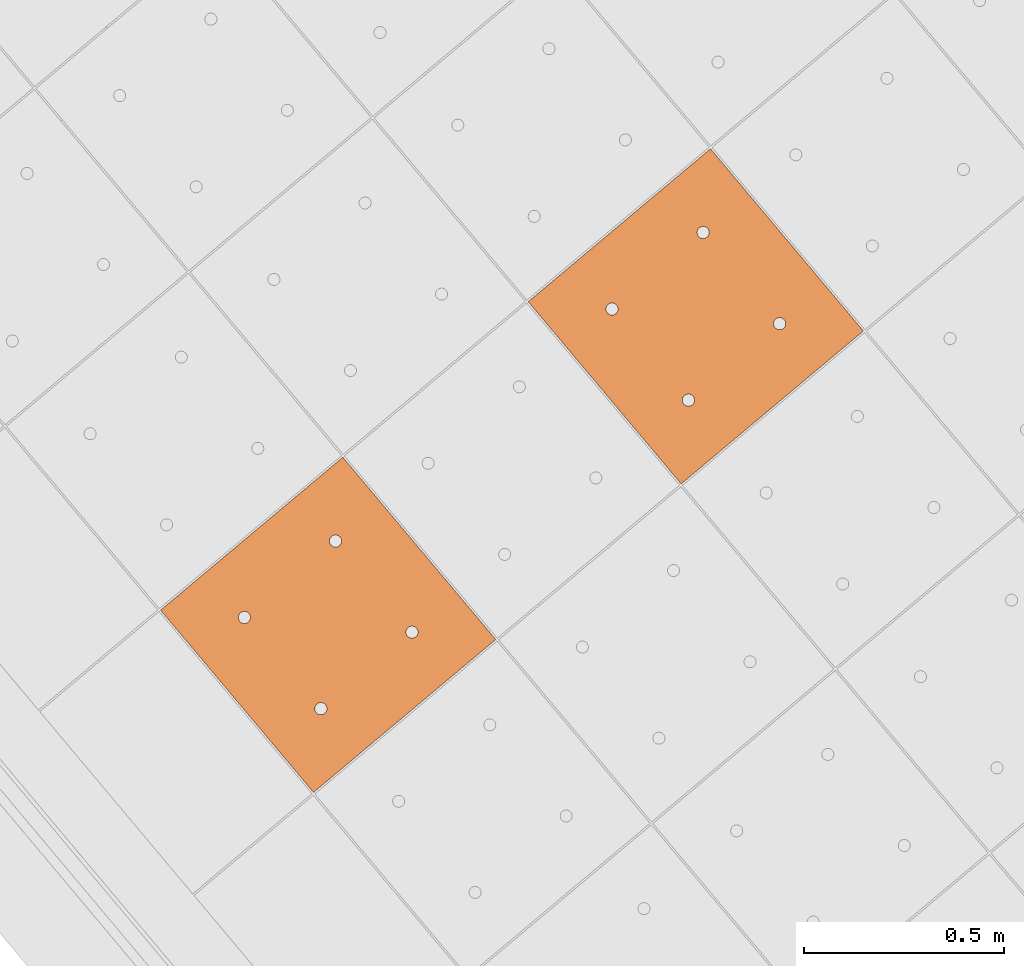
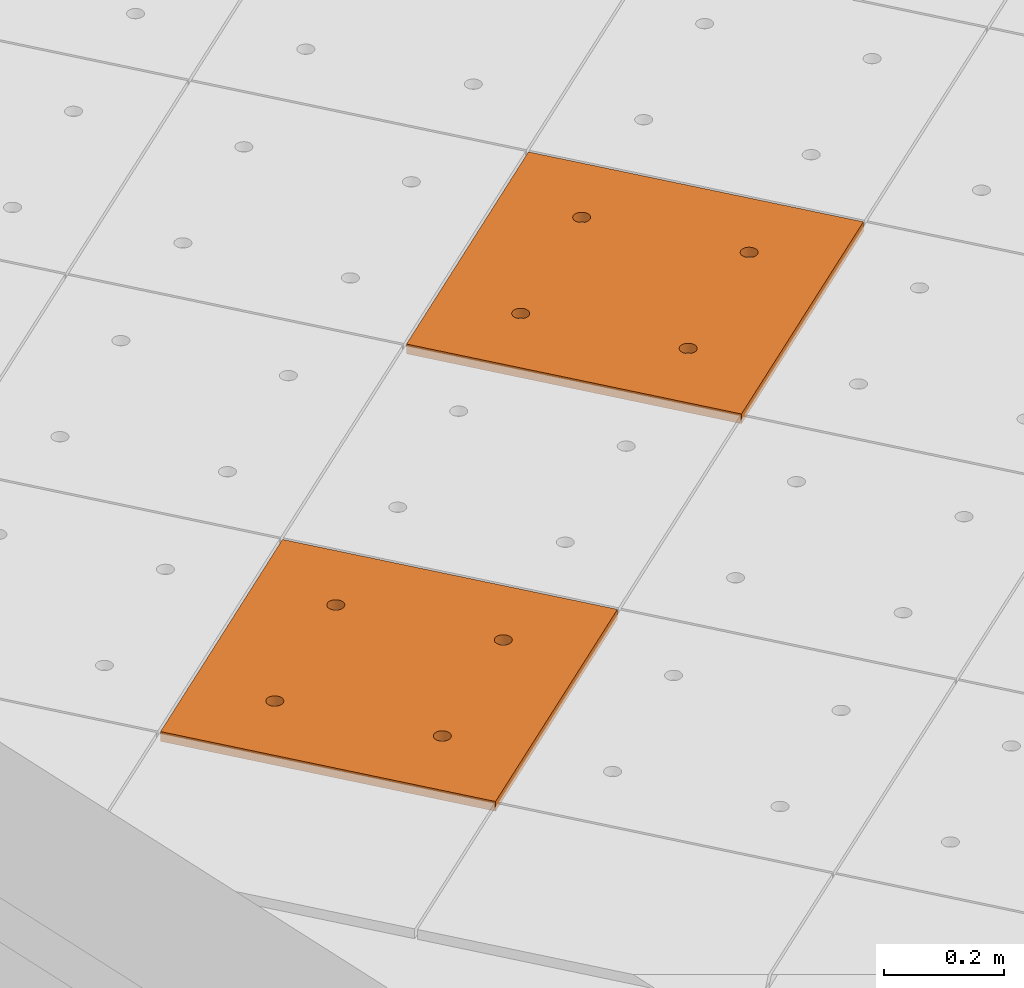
# One storey, part 128 of 338: 2 proxies, 1 element without a shape of its own.
"""IFC2X3 building model written with IfcOpenShell, lengths in millimetres."""

from ifc_helpers import new_model, entity, si_unit, converted_unit, derived_unit, money_unit, direction, frame, origin_with_axes, place, context, subcontext, project, spatial, faceted_brep, source, transform, mapped, material, type_object, type_shapes, element, aggregate, save


model = new_model("IFC2X3")

# Units and contexts
model_context = context("Model", 3, precision=0.01, world=origin_with_axes(), true_north=direction((0.0, 1.0)))
plan_context = context("Plan", 3, precision=0.01, world=origin_with_axes(), true_north=direction((0.0, 1.0)))
body_context = subcontext(model_context, "Body", "Model", "MODEL_VIEW")
ifc_project = project(units=[si_unit("LENGTHUNIT", "METRE", prefix="MILLI"), si_unit("AREAUNIT", "SQUARE_METRE"), si_unit("VOLUMEUNIT", "CUBIC_METRE"), converted_unit("PLANEANGLEUNIT", "DEGREE", entity("IfcPlaneAngleMeasure", 0.0174532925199), si_unit("PLANEANGLEUNIT", "RADIAN"), dimensions=[0, 0, 0, 0, 0, 0, 0]), money_unit("EUR"), converted_unit("TIMEUNIT", "Year", entity("IfcTimeMeasure", 31556926.0), si_unit("TIMEUNIT", "SECOND"), dimensions=[0, 0, 1, 0, 0, 0, 0]), si_unit("MASSUNIT", "GRAM", prefix="KILO"), si_unit("THERMODYNAMICTEMPERATUREUNIT", "DEGREE_CELSIUS"), si_unit("LUMINOUSINTENSITYUNIT", "LUMEN"), si_unit("ENERGYUNIT", "JOULE", prefix="MEGA"), derived_unit("THERMALCONDUCTANCEUNIT", [(si_unit("POWERUNIT", "WATT"), 1), (si_unit("LENGTHUNIT", "METRE"), -1), (si_unit("THERMODYNAMICTEMPERATUREUNIT", "KELVIN"), -1)]), derived_unit("SPECIFICHEATCAPACITYUNIT", [(si_unit("ENERGYUNIT", "JOULE"), 1), (si_unit("MASSUNIT", "GRAM", prefix="KILO"), -1), (si_unit("THERMODYNAMICTEMPERATUREUNIT", "KELVIN"), -1)]), derived_unit("MASSDENSITYUNIT", [(si_unit("MASSUNIT", "GRAM", prefix="KILO"), 1), (si_unit("VOLUMEUNIT", "CUBIC_METRE"), -1)])], contexts=[model_context, plan_context])

# Site, building, storey
site_placement = place(None, origin_with_axes())
site = spatial("IfcSite", under=ifc_project, at=site_placement, Name="Fortuinstraat Woensdrecht", CompositionType="ELEMENT")
building_placement = place(site_placement, origin_with_axes())
building = spatial("IfcBuilding", under=site, at=building_placement, Name="IKC Fortuna", CompositionType="ELEMENT")
storey_placement = place(building_placement, origin_with_axes())
storey = spatial("IfcBuildingStorey", under=building, at=storey_placement, Name="00 begane grond", CompositionType="ELEMENT", Elevation=0.0)

# Covering, proxies
covering_type = type_object("IfcCoveringType", Name="Curtain Wall Type", PredefinedType="CEILING")
covering_placement = place(storey_placement, frame((15150.6418133, -6622.13986243, 4660.0), z_axis=(0.0, 0.0, 1.0), x_axis=(1.0, 0.0, 0.0)))
covering = element("IfcCovering", 1, at=covering_placement, inside=storey, type_object=covering_type, Name="45_Plafondafwerking_P01", PredefinedType="CEILING")
ifc_material = material(Name="Gipsplaat")
building_element_proxy_type = type_object("IfcBuildingElementProxyType", Name="Main Panel 600 x 600 x 20", PredefinedType="NOTDEFINED")
shared_shape = source(origin_with_axes(), body_context, "Body", "Brep", [
    faceted_brep([(2.49999999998, 2.49999999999, -10.0), (300.0, 2.49999999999, -10.0), (300.0, 2.49999999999, 10.0), (2.49999999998, 2.49999999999, 10.0), (2.49999999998, 300.0, -10.0), (2.49999999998, 597.5, -10.0), (300.0, 597.5, -10.0), (597.5, 597.5, -10.0), (597.5, 300.0, -10.0), (597.5, 2.49999999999, -10.0), (166.25, 450.06232995, -10.0), (165.79423259, 452.64711538, -10.0), (164.896546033, 455.11348892, -10.0), (163.58421608, 457.38651108, -10.0), (161.897117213, 459.39711721, -10.0), (159.886511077, 461.08421608, -10.0), (157.613488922, 462.39654603, -10.0), (155.147115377, 463.29423259, -10.0), (152.562329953, 463.75, -10.0), (149.937670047, 463.75, -10.0), (147.352884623, 463.29423259, -10.0), (144.886511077, 462.39654603, -10.0), (142.613488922, 461.08421608, -10.0), (140.602882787, 459.39711721, -10.0), (138.91578392, 457.38651108, -10.0), (137.603453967, 455.11348892, -10.0), (136.705767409, 452.64711538, -10.0), (136.25, 450.06232995, -10.0), (136.25, 448.75, -10.0), (136.25, 447.43767005, -10.0), (136.705767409, 444.85288462, -10.0), (137.603453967, 442.38651108, -10.0), (138.91578392, 440.11348892, -10.0), (140.602882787, 438.10288279, -10.0), (142.613488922, 436.41578392, -10.0), (144.886511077, 435.10345397, -10.0), (147.352884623, 434.20576741, -10.0), (149.937670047, 433.75, -10.0), (152.562329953, 433.75, -10.0), (155.147115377, 434.20576741, -10.0), (157.613488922, 435.10345397, -10.0), (159.886511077, 436.41578392, -10.0), (161.897117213, 438.10288279, -10.0), (163.58421608, 440.11348892, -10.0), (164.896546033, 442.38651108, -10.0), (165.79423259, 444.85288462, -10.0), (166.25, 447.43767005, -10.0), (463.75, 450.06232995, -10.0), (463.29423259, 452.64711538, -10.0), (462.396546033, 455.11348892, -10.0), (461.08421608, 457.38651108, -10.0), (459.397117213, 459.39711721, -10.0), (457.386511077, 461.08421608, -10.0), (455.113488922, 462.39654603, -10.0), (452.647115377, 463.29423259, -10.0), (450.062329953, 463.75, -10.0), (447.437670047, 463.75, -10.0), (444.852884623, 463.29423259, -10.0), (442.386511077, 462.39654603, -10.0), (440.113488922, 461.08421608, -10.0), (438.102882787, 459.39711721, -10.0), (436.41578392, 457.38651108, -10.0), (435.103453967, 455.11348892, -10.0), (434.205767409, 452.64711538, -10.0), (433.75, 450.06232995, -10.0), (433.75, 448.75, -10.0), (433.75, 447.43767005, -10.0), (434.205767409, 444.85288462, -10.0), (435.103453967, 442.38651108, -10.0), (436.41578392, 440.11348892, -10.0), (438.102882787, 438.10288279, -10.0), (440.113488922, 436.41578392, -10.0), (442.386511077, 435.10345397, -10.0), (444.852884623, 434.20576741, -10.0), (447.437670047, 433.75, -10.0), (450.062329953, 433.75, -10.0), (452.647115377, 434.20576741, -10.0), (455.113488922, 435.10345397, -10.0), (457.386511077, 436.41578392, -10.0), (459.397117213, 438.10288279, -10.0), (461.08421608, 440.11348892, -10.0), (462.396546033, 442.38651108, -10.0), (463.29423259, 444.85288462, -10.0), (463.75, 447.43767005, -10.0), (463.75, 152.56232995, -10.0), (463.29423259, 155.14711538, -10.0), (462.396546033, 157.61348892, -10.0), (461.08421608, 159.88651108, -10.0), (459.397117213, 161.89711721, -10.0), (457.386511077, 163.58421608, -10.0), (455.113488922, 164.89654603, -10.0), (452.647115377, 165.79423259, -10.0), (450.062329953, 166.25, -10.0), (447.437670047, 166.25, -10.0), (444.852884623, 165.79423259, -10.0), (442.386511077, 164.89654603, -10.0), (440.113488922, 163.58421608, -10.0), (438.102882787, 161.89711721, -10.0), (436.41578392, 159.88651108, -10.0), (435.103453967, 157.61348892, -10.0), (434.205767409, 155.14711538, -10.0), (433.75, 152.56232995, -10.0), (433.75, 151.25, -10.0), (433.75, 149.93767005, -10.0), (434.205767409, 147.35288462, -10.0), (435.103453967, 144.88651108, -10.0), (436.41578392, 142.61348892, -10.0), (438.102882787, 140.60288279, -10.0), (440.113488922, 138.91578392, -10.0), (442.386511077, 137.60345397, -10.0), (444.852884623, 136.70576741, -10.0), (447.437670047, 136.25, -10.0), (450.062329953, 136.25, -10.0), (452.647115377, 136.70576741, -10.0), (455.113488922, 137.60345397, -10.0), (457.386511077, 138.91578392, -10.0), (459.397117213, 140.60288279, -10.0), (461.08421608, 142.61348892, -10.0), (462.396546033, 144.88651108, -10.0), (463.29423259, 147.35288462, -10.0), (463.75, 149.93767005, -10.0), (166.25, 152.56232995, -10.0), (165.79423259, 155.14711538, -10.0), (164.896546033, 157.61348892, -10.0), (163.58421608, 159.88651108, -10.0), (161.897117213, 161.89711721, -10.0), (159.886511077, 163.58421608, -10.0), (157.613488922, 164.89654603, -10.0), (155.147115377, 165.79423259, -10.0), (152.562329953, 166.25, -10.0), (149.937670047, 166.25, -10.0), (147.352884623, 165.79423259, -10.0), (144.886511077, 164.89654603, -10.0), (142.613488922, 163.58421608, -10.0), (140.602882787, 161.89711721, -10.0), (138.91578392, 159.88651108, -10.0), (137.603453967, 157.61348892, -10.0), (136.705767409, 155.14711538, -10.0), (136.25, 152.56232995, -10.0), (136.25, 151.25, -10.0), (136.25, 149.93767005, -10.0), (136.705767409, 147.35288462, -10.0), (137.603453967, 144.88651108, -10.0), (138.91578392, 142.61348892, -10.0), (140.602882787, 140.60288279, -10.0), (142.613488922, 138.91578392, -10.0), (144.886511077, 137.60345397, -10.0), (147.352884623, 136.70576741, -10.0), (149.937670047, 136.25, -10.0), (152.562329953, 136.25, -10.0), (155.147115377, 136.70576741, -10.0), (157.613488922, 137.60345397, -10.0), (159.886511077, 138.91578392, -10.0), (161.897117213, 140.60288279, -10.0), (163.58421608, 142.61348892, -10.0), (164.896546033, 144.88651108, -10.0), (165.79423259, 147.35288462, -10.0), (166.25, 149.93767005, -10.0), (597.5, 2.49999999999, 10.0), (597.5, 300.0, 10.0), (597.5, 597.5, 10.0), (300.0, 597.5, 10.0), (2.49999999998, 597.5, 10.0), (2.49999999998, 300.0, 10.0), (166.25, 450.06232995, 10.0), (166.25, 447.43767005, 10.0), (165.79423259, 444.85288462, 10.0), (164.896546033, 442.38651108, 10.0), (163.58421608, 440.11348892, 10.0), (161.897117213, 438.10288279, 10.0), (159.886511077, 436.41578392, 10.0), (157.613488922, 435.10345397, 10.0), (155.147115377, 434.20576741, 10.0), (152.562329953, 433.75, 10.0), (149.937670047, 433.75, 10.0), (147.352884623, 434.20576741, 10.0), (144.886511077, 435.10345397, 10.0), (142.613488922, 436.41578392, 10.0), (140.602882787, 438.10288279, 10.0), (138.91578392, 440.11348892, 10.0), (137.603453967, 442.38651108, 10.0), (136.705767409, 444.85288462, 10.0), (136.25, 447.43767005, 10.0), (136.25, 448.75, 10.0), (136.25, 450.06232995, 10.0), (136.705767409, 452.64711538, 10.0), (137.603453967, 455.11348892, 10.0), (138.91578392, 457.38651108, 10.0), (140.602882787, 459.39711721, 10.0), (142.613488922, 461.08421608, 10.0), (144.886511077, 462.39654603, 10.0), (147.352884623, 463.29423259, 10.0), (149.937670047, 463.75, 10.0), (152.562329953, 463.75, 10.0), (155.147115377, 463.29423259, 10.0), (157.613488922, 462.39654603, 10.0), (159.886511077, 461.08421608, 10.0), (161.897117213, 459.39711721, 10.0), (163.58421608, 457.38651108, 10.0), (164.896546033, 455.11348892, 10.0), (165.79423259, 452.64711538, 10.0), (463.75, 450.06232995, 10.0), (463.75, 447.43767005, 10.0), (463.29423259, 444.85288462, 10.0), (462.396546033, 442.38651108, 10.0), (461.08421608, 440.11348892, 10.0), (459.397117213, 438.10288279, 10.0), (457.386511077, 436.41578392, 10.0), (455.113488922, 435.10345397, 10.0), (452.647115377, 434.20576741, 10.0), (450.062329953, 433.75, 10.0), (447.437670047, 433.75, 10.0), (444.852884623, 434.20576741, 10.0), (442.386511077, 435.10345397, 10.0), (440.113488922, 436.41578392, 10.0), (438.102882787, 438.10288279, 10.0), (436.41578392, 440.11348892, 10.0), (435.103453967, 442.38651108, 10.0), (434.205767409, 444.85288462, 10.0), (433.75, 447.43767005, 10.0), (433.75, 448.75, 10.0), (433.75, 450.06232995, 10.0), (434.205767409, 452.64711538, 10.0), (435.103453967, 455.11348892, 10.0), (436.41578392, 457.38651108, 10.0), (438.102882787, 459.39711721, 10.0), (440.113488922, 461.08421608, 10.0), (442.386511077, 462.39654603, 10.0), (444.852884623, 463.29423259, 10.0), (447.437670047, 463.75, 10.0), (450.062329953, 463.75, 10.0), (452.647115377, 463.29423259, 10.0), (455.113488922, 462.39654603, 10.0), (457.386511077, 461.08421608, 10.0), (459.397117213, 459.39711721, 10.0), (461.08421608, 457.38651108, 10.0), (462.396546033, 455.11348892, 10.0), (463.29423259, 452.64711538, 10.0), (463.75, 152.56232995, 10.0), (463.75, 149.93767005, 10.0), (463.29423259, 147.35288462, 10.0), (462.396546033, 144.88651108, 10.0), (461.08421608, 142.61348892, 10.0), (459.397117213, 140.60288279, 10.0), (457.386511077, 138.91578392, 10.0), (455.113488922, 137.60345397, 10.0), (452.647115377, 136.70576741, 10.0), (450.062329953, 136.25, 10.0), (447.437670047, 136.25, 10.0), (444.852884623, 136.70576741, 10.0), (442.386511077, 137.60345397, 10.0), (440.113488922, 138.91578392, 10.0), (438.102882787, 140.60288279, 10.0), (436.41578392, 142.61348892, 10.0), (435.103453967, 144.88651108, 10.0), (434.205767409, 147.35288462, 10.0), (433.75, 149.93767005, 10.0), (433.75, 151.25, 10.0), (433.75, 152.56232995, 10.0), (434.205767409, 155.14711538, 10.0), (435.103453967, 157.61348892, 10.0), (436.41578392, 159.88651108, 10.0), (438.102882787, 161.89711721, 10.0), (440.113488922, 163.58421608, 10.0), (442.386511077, 164.89654603, 10.0), (444.852884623, 165.79423259, 10.0), (447.437670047, 166.25, 10.0), (450.062329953, 166.25, 10.0), (452.647115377, 165.79423259, 10.0), (455.113488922, 164.89654603, 10.0), (457.386511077, 163.58421608, 10.0), (459.397117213, 161.89711721, 10.0), (461.08421608, 159.88651108, 10.0), (462.396546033, 157.61348892, 10.0), (463.29423259, 155.14711538, 10.0), (166.25, 152.56232995, 10.0), (166.25, 149.93767005, 10.0), (165.79423259, 147.35288462, 10.0), (164.896546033, 144.88651108, 10.0), (163.58421608, 142.61348892, 10.0), (161.897117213, 140.60288279, 10.0), (159.886511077, 138.91578392, 10.0), (157.613488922, 137.60345397, 10.0), (155.147115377, 136.70576741, 10.0), (152.562329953, 136.25, 10.0), (149.937670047, 136.25, 10.0), (147.352884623, 136.70576741, 10.0), (144.886511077, 137.60345397, 10.0), (142.613488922, 138.91578392, 10.0), (140.602882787, 140.60288279, 10.0), (138.91578392, 142.61348892, 10.0), (137.603453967, 144.88651108, 10.0), (136.705767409, 147.35288462, 10.0), (136.25, 149.93767005, 10.0), (136.25, 151.25, 10.0), (136.25, 152.56232995, 10.0), (136.705767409, 155.14711538, 10.0), (137.603453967, 157.61348892, 10.0), (138.91578392, 159.88651108, 10.0), (140.602882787, 161.89711721, 10.0), (142.613488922, 163.58421608, 10.0), (144.886511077, 164.89654603, 10.0), (147.352884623, 165.79423259, 10.0), (149.937670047, 166.25, 10.0), (152.562329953, 166.25, 10.0), (155.147115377, 165.79423259, 10.0), (157.613488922, 164.89654603, 10.0), (159.886511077, 163.58421608, 10.0), (161.897117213, 161.89711721, 10.0), (163.58421608, 159.88651108, 10.0), (164.896546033, 157.61348892, 10.0), (165.79423259, 155.14711538, 10.0)], [[[0, 1, 2, 3]], [[0, 4, 5, 6, 7, 8, 9, 1], [10, 11, 12, 13, 14, 15, 16, 17, 18, 19, 20, 21, 22, 23, 24, 25, 26, 27, 28, 29, 30, 31, 32, 33, 34, 35, 36, 37, 38, 39, 40, 41, 42, 43, 44, 45, 46], [47, 48, 49, 50, 51, 52, 53, 54, 55, 56, 57, 58, 59, 60, 61, 62, 63, 64, 65, 66, 67, 68, 69, 70, 71, 72, 73, 74, 75, 76, 77, 78, 79, 80, 81, 82, 83], [84, 85, 86, 87, 88, 89, 90, 91, 92, 93, 94, 95, 96, 97, 98, 99, 100, 101, 102, 103, 104, 105, 106, 107, 108, 109, 110, 111, 112, 113, 114, 115, 116, 117, 118, 119, 120], [121, 122, 123, 124, 125, 126, 127, 128, 129, 130, 131, 132, 133, 134, 135, 136, 137, 138, 139, 140, 141, 142, 143, 144, 145, 146, 147, 148, 149, 150, 151, 152, 153, 154, 155, 156, 157]], [[1, 9, 158, 2]], [[3, 2, 158, 159, 160, 161, 162, 163], [164, 165, 166, 167, 168, 169, 170, 171, 172, 173, 174, 175, 176, 177, 178, 179, 180, 181, 182, 183, 184, 185, 186, 187, 188, 189, 190, 191, 192, 193, 194, 195, 196, 197, 198, 199, 200], [201, 202, 203, 204, 205, 206, 207, 208, 209, 210, 211, 212, 213, 214, 215, 216, 217, 218, 219, 220, 221, 222, 223, 224, 225, 226, 227, 228, 229, 230, 231, 232, 233, 234, 235, 236, 237], [238, 239, 240, 241, 242, 243, 244, 245, 246, 247, 248, 249, 250, 251, 252, 253, 254, 255, 256, 257, 258, 259, 260, 261, 262, 263, 264, 265, 266, 267, 268, 269, 270, 271, 272, 273, 274], [275, 276, 277, 278, 279, 280, 281, 282, 283, 284, 285, 286, 287, 288, 289, 290, 291, 292, 293, 294, 295, 296, 297, 298, 299, 300, 301, 302, 303, 304, 305, 306, 307, 308, 309, 310, 311]], [[4, 0, 3, 163]], [[5, 4, 163, 162]], [[6, 5, 162, 161]], [[7, 6, 161, 160]], [[8, 7, 160, 159]], [[9, 8, 159, 158]], [[11, 10, 164, 200]], [[12, 11, 200, 199]], [[13, 12, 199, 198]], [[14, 13, 198, 197]], [[15, 14, 197, 196]], [[16, 15, 196, 195]], [[17, 16, 195, 194]], [[18, 17, 194, 193]], [[19, 18, 193, 192]], [[20, 19, 192, 191]], [[21, 20, 191, 190]], [[22, 21, 190, 189]], [[23, 22, 189, 188]], [[24, 23, 188, 187]], [[25, 24, 187, 186]], [[26, 25, 186, 185]], [[27, 26, 185, 184]], [[28, 27, 184, 183]], [[29, 28, 183, 182]], [[30, 29, 182, 181]], [[31, 30, 181, 180]], [[32, 31, 180, 179]], [[33, 32, 179, 178]], [[34, 33, 178, 177]], [[35, 34, 177, 176]], [[36, 35, 176, 175]], [[37, 36, 175, 174]], [[38, 37, 174, 173]], [[39, 38, 173, 172]], [[40, 39, 172, 171]], [[41, 40, 171, 170]], [[42, 41, 170, 169]], [[43, 42, 169, 168]], [[44, 43, 168, 167]], [[45, 44, 167, 166]], [[46, 45, 166, 165]], [[10, 46, 165, 164]], [[48, 47, 201, 237]], [[49, 48, 237, 236]], [[50, 49, 236, 235]], [[51, 50, 235, 234]], [[52, 51, 234, 233]], [[53, 52, 233, 232]], [[54, 53, 232, 231]], [[55, 54, 231, 230]], [[56, 55, 230, 229]], [[57, 56, 229, 228]], [[58, 57, 228, 227]], [[59, 58, 227, 226]], [[60, 59, 226, 225]], [[61, 60, 225, 224]], [[62, 61, 224, 223]], [[63, 62, 223, 222]], [[64, 63, 222, 221]], [[65, 64, 221, 220]], [[66, 65, 220, 219]], [[67, 66, 219, 218]], [[68, 67, 218, 217]], [[69, 68, 217, 216]], [[70, 69, 216, 215]], [[71, 70, 215, 214]], [[72, 71, 214, 213]], [[73, 72, 213, 212]], [[74, 73, 212, 211]], [[75, 74, 211, 210]], [[76, 75, 210, 209]], [[77, 76, 209, 208]], [[78, 77, 208, 207]], [[79, 78, 207, 206]], [[80, 79, 206, 205]], [[81, 80, 205, 204]], [[82, 81, 204, 203]], [[83, 82, 203, 202]], [[47, 83, 202, 201]], [[85, 84, 238, 274]], [[86, 85, 274, 273]], [[87, 86, 273, 272]], [[88, 87, 272, 271]], [[89, 88, 271, 270]], [[90, 89, 270, 269]], [[91, 90, 269, 268]], [[92, 91, 268, 267]], [[93, 92, 267, 266]], [[94, 93, 266, 265]], [[95, 94, 265, 264]], [[96, 95, 264, 263]], [[97, 96, 263, 262]], [[98, 97, 262, 261]], [[99, 98, 261, 260]], [[100, 99, 260, 259]], [[101, 100, 259, 258]], [[102, 101, 258, 257]], [[103, 102, 257, 256]], [[104, 103, 256, 255]], [[105, 104, 255, 254]], [[106, 105, 254, 253]], [[107, 106, 253, 252]], [[108, 107, 252, 251]], [[109, 108, 251, 250]], [[110, 109, 250, 249]], [[111, 110, 249, 248]], [[112, 111, 248, 247]], [[113, 112, 247, 246]], [[114, 113, 246, 245]], [[115, 114, 245, 244]], [[116, 115, 244, 243]], [[117, 116, 243, 242]], [[118, 117, 242, 241]], [[119, 118, 241, 240]], [[120, 119, 240, 239]], [[84, 120, 239, 238]], [[122, 121, 275, 311]], [[123, 122, 311, 310]], [[124, 123, 310, 309]], [[125, 124, 309, 308]], [[126, 125, 308, 307]], [[127, 126, 307, 306]], [[128, 127, 306, 305]], [[129, 128, 305, 304]], [[130, 129, 304, 303]], [[131, 130, 303, 302]], [[132, 131, 302, 301]], [[133, 132, 301, 300]], [[134, 133, 300, 299]], [[135, 134, 299, 298]], [[136, 135, 298, 297]], [[137, 136, 297, 296]], [[138, 137, 296, 295]], [[139, 138, 295, 294]], [[140, 139, 294, 293]], [[141, 140, 293, 292]], [[142, 141, 292, 291]], [[143, 142, 291, 290]], [[144, 143, 290, 289]], [[145, 144, 289, 288]], [[146, 145, 288, 287]], [[147, 146, 287, 286]], [[148, 147, 286, 285]], [[149, 148, 285, 284]], [[150, 149, 284, 283]], [[151, 150, 283, 282]], [[152, 151, 282, 281]], [[153, 152, 281, 280]], [[154, 153, 280, 279]], [[155, 154, 279, 278]], [[156, 155, 278, 277]], [[157, 156, 277, 276]], [[121, 157, 276, 275]]]),
])
type_shapes(building_element_proxy_type, [shared_shape])
proxy_1_placement = place(covering_placement, frame((-2865.01649523, -4838.61951026, 1.7763568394e-10), z_axis=(0.0, 0.0, 1.0), x_axis=(1.0, 0.0, 0.0)))
proxy_1 = element("IfcBuildingElementProxy", 2, at=proxy_1_placement, type_object=building_element_proxy_type, material=ifc_material, Name="__600x616 Rockfon Krios", context=body_context, shape_type="MappedRepresentation", body=[
    mapped(shared_shape, transform((36.9769427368, 422.649625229, 0.0), x_axis=(-0.766044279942, -0.642787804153, 0.0), y_axis=(0.642787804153, -0.766044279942, 0.0), z_axis=(0.0, 0.0, 1.0))),
])
proxy_2_placement = place(covering_placement, frame((-3784.26963116, -5609.96487524, 2.17603712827e-10), z_axis=(0.0, 0.0, 1.0), x_axis=(1.0, 0.0, 0.0)))
proxy_2 = element("IfcBuildingElementProxy", 3, at=proxy_2_placement, type_object=building_element_proxy_type, material=ifc_material, Name="__600x632 Rockfon Krios", context=body_context, shape_type="MappedRepresentation", body=[
    mapped(shared_shape, transform((36.9769427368, 422.649625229, 0.0), x_axis=(-0.766044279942, -0.642787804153, 0.0), y_axis=(0.642787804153, -0.766044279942, 0.0), z_axis=(0.0, 0.0, 1.0))),
])
aggregate(covering, [proxy_1, proxy_2])

save(model, "model.ifc")
